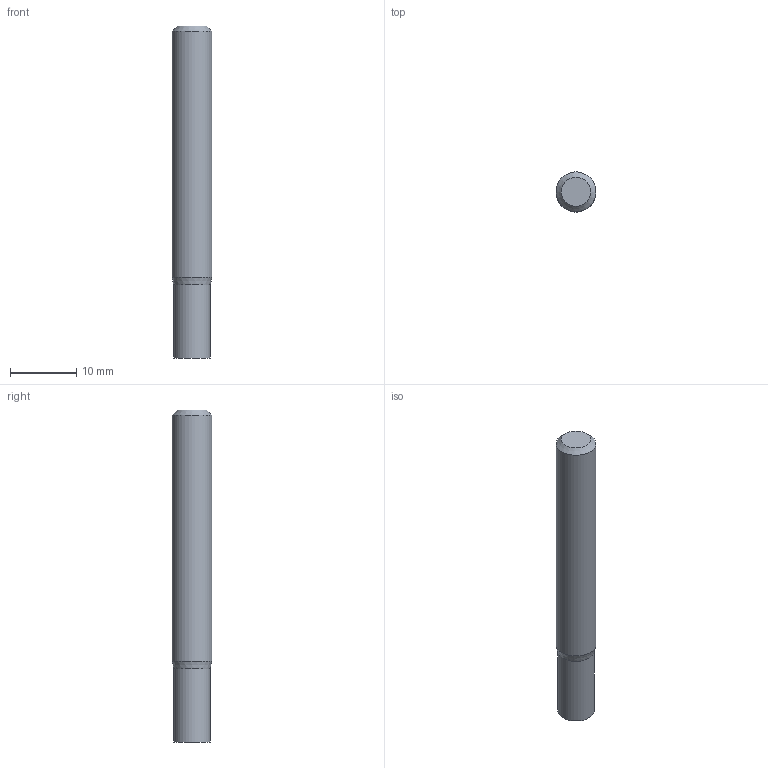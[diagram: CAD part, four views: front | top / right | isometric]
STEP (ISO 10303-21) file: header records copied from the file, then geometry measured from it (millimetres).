
FILE_DESCRIPTION((''),'2;1');
FILE_NAME('C:\Users\nsx150\AppData\Local\Temp\Mastercam 2021\E36A1X9CCL\TEMP.step','2023-04-21T15:13:13',(''),(''),'STEP Write','Mastercam 2021 ... CNC Software, Inc.','');
FILE_SCHEMA(('AUTOMOTIVE_DESIGN'));
Length unit declared in the file: millimetre
Products named in the file (1): None
Bounding box: 6 x 6 x 50 mm (x, y, z)
Volume: 1355.9 mm3; surface area: 1014.6 mm2
Topology: 2 solids, 2 shells, 8 faces, 10 edges, 6 vertices
Faces by surface type: plane 4, cylinder 2, cone 2
Full cylindrical faces by diameter (mm): 5.5 x1, 6 x1
Entity records: 190 total; most frequent: DIRECTION 32, CARTESIAN_POINT 22, AXIS2_PLACEMENT_3D 16, ORIENTED_EDGE 12, EDGE_LOOP 12, STYLED_ITEM 11, ADVANCED_FACE 8, VERTEX_POINT 6
